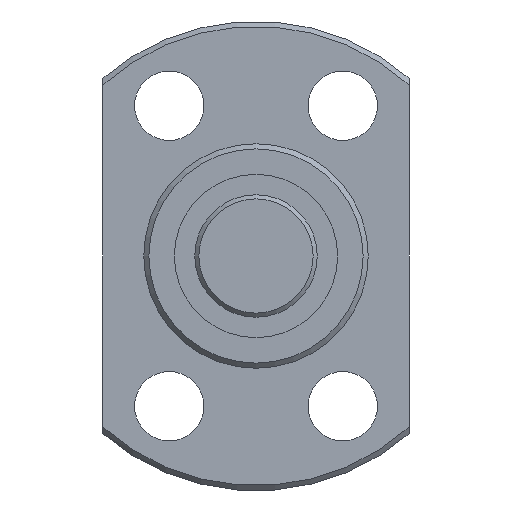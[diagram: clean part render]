
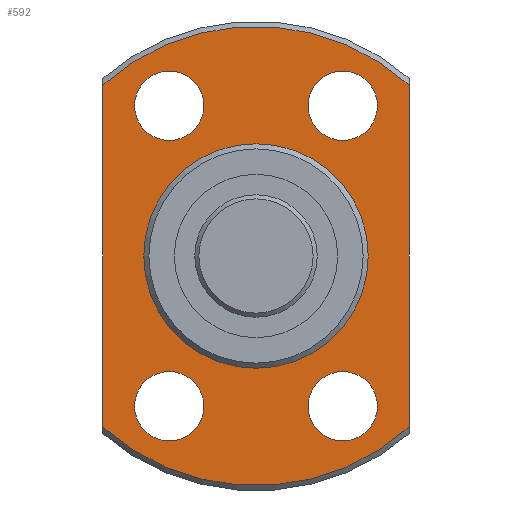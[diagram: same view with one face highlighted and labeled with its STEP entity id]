
A CAD part, left-side view. The second image highlights one B-rep face of the part: STEP entity #592.
In plain terms, the highlighted planar face has unit normal (-1, 0, 0).
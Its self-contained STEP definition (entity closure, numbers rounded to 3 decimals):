
#77=LINE('',#1068,#93);
#78=LINE('',#1069,#94);
#93=VECTOR('',#860,1000.);
#94=VECTOR('',#861,1000.);
#176=ORIENTED_EDGE('',*,*,#280,.T.);
#177=ORIENTED_EDGE('',*,*,#281,.T.);
#178=ORIENTED_EDGE('',*,*,#282,.T.);
#179=ORIENTED_EDGE('',*,*,#283,.T.);
#180=ORIENTED_EDGE('',*,*,#284,.T.);
#181=ORIENTED_EDGE('',*,*,#275,.F.);
#182=ORIENTED_EDGE('',*,*,#285,.T.);
#183=ORIENTED_EDGE('',*,*,#277,.F.);
#184=ORIENTED_EDGE('',*,*,#286,.T.);
#275=EDGE_CURVE('',#333,#334,#378,.T.);
#277=EDGE_CURVE('',#335,#336,#379,.T.);
#280=EDGE_CURVE('',#337,#337,#380,.T.);
#281=EDGE_CURVE('',#338,#338,#381,.T.);
#282=EDGE_CURVE('',#339,#339,#382,.T.);
#283=EDGE_CURVE('',#340,#340,#383,.T.);
#284=EDGE_CURVE('',#341,#341,#384,.T.);
#285=EDGE_CURVE('',#333,#336,#77,.T.);
#286=EDGE_CURVE('',#335,#334,#78,.T.);
#333=VERTEX_POINT('',#1038);
#334=VERTEX_POINT('',#1040);
#335=VERTEX_POINT('',#1047);
#336=VERTEX_POINT('',#1048);
#337=VERTEX_POINT('',#1059);
#338=VERTEX_POINT('',#1061);
#339=VERTEX_POINT('',#1063);
#340=VERTEX_POINT('',#1065);
#341=VERTEX_POINT('',#1067);
#378=CIRCLE('',#687,11.25);
#379=CIRCLE('',#689,11.25);
#380=CIRCLE('',#691,5.);
#381=CIRCLE('',#692,1.7);
#382=CIRCLE('',#693,1.7);
#383=CIRCLE('',#694,1.7);
#384=CIRCLE('',#695,1.7);
#436=EDGE_LOOP('',(#176));
#437=EDGE_LOOP('',(#177));
#438=EDGE_LOOP('',(#178));
#439=EDGE_LOOP('',(#179));
#440=EDGE_LOOP('',(#180));
#441=EDGE_LOOP('',(#181,#182,#183,#184));
#514=FACE_BOUND('',#436,.T.);
#515=FACE_BOUND('',#437,.T.);
#516=FACE_BOUND('',#438,.T.);
#517=FACE_BOUND('',#439,.T.);
#518=FACE_BOUND('',#440,.T.);
#519=FACE_BOUND('',#441,.T.);
#560=PLANE('',#690);
#592=ADVANCED_FACE('',(#514,#515,#516,#517,#518,#519),#560,.T.);
#687=AXIS2_PLACEMENT_3D('',#1039,#842,#843);
#689=AXIS2_PLACEMENT_3D('',#1046,#846,#847);
#690=AXIS2_PLACEMENT_3D('',#1057,#848,#849);
#691=AXIS2_PLACEMENT_3D('',#1058,#850,#851);
#692=AXIS2_PLACEMENT_3D('',#1060,#852,#853);
#693=AXIS2_PLACEMENT_3D('',#1062,#854,#855);
#694=AXIS2_PLACEMENT_3D('',#1064,#856,#857);
#695=AXIS2_PLACEMENT_3D('',#1066,#858,#859);
#842=DIRECTION('',(1.,0.,0.));
#843=DIRECTION('',(0.,0.,-1.));
#846=DIRECTION('',(1.,0.,0.));
#847=DIRECTION('',(0.,0.,-1.));
#848=DIRECTION('',(-1.,0.,0.));
#849=DIRECTION('',(0.,0.,1.));
#850=DIRECTION('',(1.,0.,0.));
#851=DIRECTION('',(0.,0.,-1.));
#852=DIRECTION('',(1.,0.,0.));
#853=DIRECTION('',(0.,0.,-1.));
#854=DIRECTION('',(1.,0.,0.));
#855=DIRECTION('',(0.,0.,-1.));
#856=DIRECTION('',(1.,0.,0.));
#857=DIRECTION('',(0.,0.,-1.));
#858=DIRECTION('',(1.,0.,0.));
#859=DIRECTION('',(0.,0.,-1.));
#860=DIRECTION('',(0.,0.,-1.));
#861=DIRECTION('',(0.,0.,1.));
#1038=CARTESIAN_POINT('',(11.,7.5,8.385));
#1039=CARTESIAN_POINT('',(11.,0.,0.));
#1040=CARTESIAN_POINT('',(11.,-7.5,8.385));
#1046=CARTESIAN_POINT('',(11.,0.,0.));
#1047=CARTESIAN_POINT('',(11.,-7.5,-8.385));
#1048=CARTESIAN_POINT('',(11.,7.5,-8.385));
#1057=CARTESIAN_POINT('',(11.,11.25,0.));
#1058=CARTESIAN_POINT('',(11.,0.,0.));
#1059=CARTESIAN_POINT('',(11.,0.,-5.));
#1060=CARTESIAN_POINT('',(11.,4.25,7.361));
#1061=CARTESIAN_POINT('',(11.,4.25,5.661));
#1062=CARTESIAN_POINT('',(11.,-4.25,7.361));
#1063=CARTESIAN_POINT('',(11.,-4.25,5.661));
#1064=CARTESIAN_POINT('',(11.,-4.25,-7.361));
#1065=CARTESIAN_POINT('',(11.,-4.25,-9.061));
#1066=CARTESIAN_POINT('',(11.,4.25,-7.361));
#1067=CARTESIAN_POINT('',(11.,4.25,-9.061));
#1068=CARTESIAN_POINT('',(11.,7.5,0.));
#1069=CARTESIAN_POINT('',(11.,-7.5,0.));
